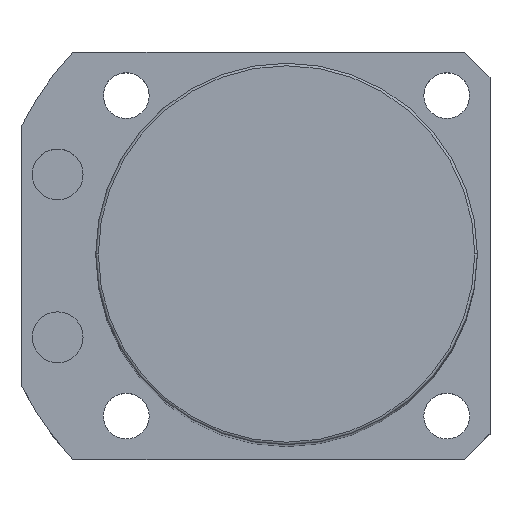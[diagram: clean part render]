
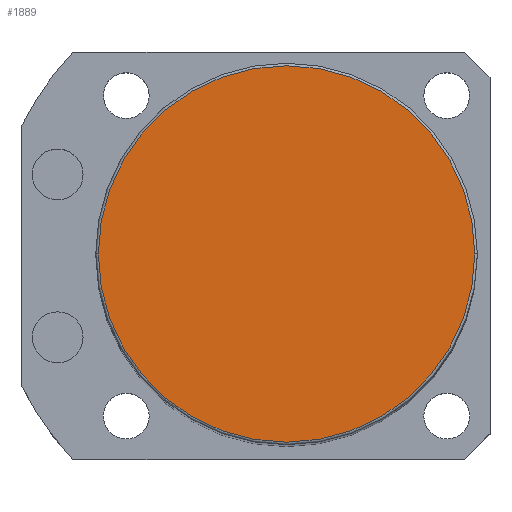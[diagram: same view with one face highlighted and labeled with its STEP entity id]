
A CAD part, top view. The second image highlights one B-rep face of the part: STEP entity #1889.
In plain terms, the highlighted planar face has unit normal (0, 0, 1).
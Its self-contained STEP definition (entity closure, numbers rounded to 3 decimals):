
#190 = AXIS2_PLACEMENT_3D ( 'NONE', #2141, #1957, #2335 ) ;
#278 = PLANE ( 'NONE',  #190 ) ;
#355 = AXIS2_PLACEMENT_3D ( 'NONE', #885, #700, #499 ) ;
#392 = CARTESIAN_POINT ( 'NONE',  ( 0., 0., 230.5 ) ) ;
#499 = DIRECTION ( 'NONE',  ( 1., 0., 0. ) ) ;
#579 = VERTEX_POINT ( 'NONE', #2380 ) ;
#590 = CIRCLE ( 'NONE', #1899, 37. ) ;
#602 = DIRECTION ( 'NONE',  ( 0., 0., 1. ) ) ;
#696 = EDGE_CURVE ( 'NONE', #579, #1568, #2116, .T. ) ;
#700 = DIRECTION ( 'NONE',  ( 0., 0., 1. ) ) ;
#885 = CARTESIAN_POINT ( 'NONE',  ( 0., 0., 230.5 ) ) ;
#1004 = EDGE_CURVE ( 'NONE', #1568, #579, #590, .T. ) ;
#1081 = CARTESIAN_POINT ( 'NONE',  ( -37., 0., 230.5 ) ) ;
#1568 = VERTEX_POINT ( 'NONE', #1081 ) ;
#1673 = FACE_OUTER_BOUND ( 'NONE', #2324, .T. ) ;
#1881 = ORIENTED_EDGE ( 'NONE', *, *, #696, .T. ) ;
#1889 = ADVANCED_FACE ( 'NONE', ( #1673 ), #278, .T. ) ;
#1899 = AXIS2_PLACEMENT_3D ( 'NONE', #392, #602, #1904 ) ;
#1904 = DIRECTION ( 'NONE',  ( 1., 0., 0. ) ) ;
#1957 = DIRECTION ( 'NONE',  ( 0., 0., 1. ) ) ;
#2116 = CIRCLE ( 'NONE', #355, 37. ) ;
#2141 = CARTESIAN_POINT ( 'NONE',  ( 0., 0., 230.5 ) ) ;
#2308 = ORIENTED_EDGE ( 'NONE', *, *, #1004, .T. ) ;
#2324 = EDGE_LOOP ( 'NONE', ( #1881, #2308 ) ) ;
#2335 = DIRECTION ( 'NONE',  ( 1., 0., 0. ) ) ;
#2380 = CARTESIAN_POINT ( 'NONE',  ( 37., 0., 230.5 ) ) ;
